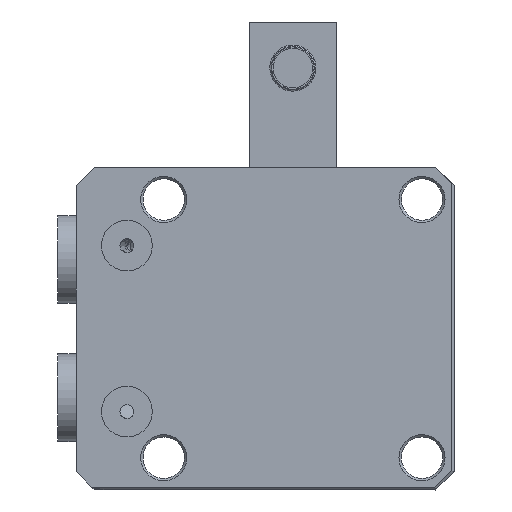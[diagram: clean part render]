
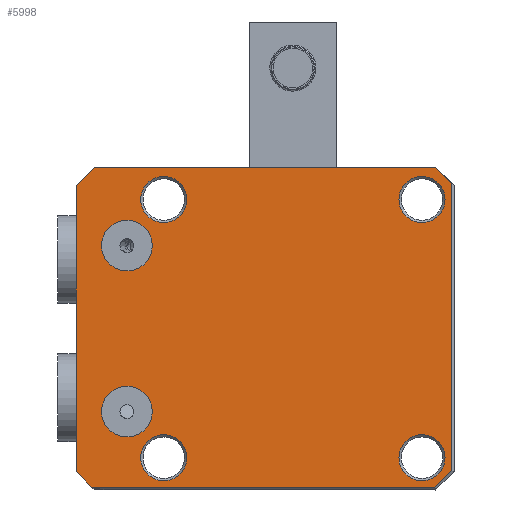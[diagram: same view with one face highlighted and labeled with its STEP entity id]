
A CAD part, front view. The second image highlights one B-rep face of the part: STEP entity #5998.
In plain terms, the highlighted planar face has unit normal (0, -1, 0).
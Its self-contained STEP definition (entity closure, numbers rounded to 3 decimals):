
#155=PLANE('',#6746);
#279=FACE_BOUND('',#862,.T.);
#280=FACE_BOUND('',#863,.T.);
#281=FACE_BOUND('',#864,.T.);
#282=FACE_BOUND('',#865,.T.);
#283=FACE_BOUND('',#866,.T.);
#284=FACE_BOUND('',#867,.T.);
#496=FACE_OUTER_BOUND('',#861,.T.);
#861=EDGE_LOOP('',(#4205,#4206,#4207,#4208,#4209,#4210,#4211,#4212,#4213));
#862=EDGE_LOOP('',(#4214));
#863=EDGE_LOOP('',(#4215));
#864=EDGE_LOOP('',(#4216));
#865=EDGE_LOOP('',(#4217));
#866=EDGE_LOOP('',(#4218));
#867=EDGE_LOOP('',(#4219));
#1282=LINE('',#9907,#1732);
#1290=LINE('',#9925,#1740);
#1293=LINE('',#9931,#1743);
#1294=LINE('',#9933,#1744);
#1295=LINE('',#9935,#1745);
#1296=LINE('',#9939,#1746);
#1297=LINE('',#9941,#1747);
#1298=LINE('',#9942,#1748);
#1732=VECTOR('',#7672,1000.);
#1740=VECTOR('',#7688,1000.);
#1743=VECTOR('',#7693,1000.);
#1744=VECTOR('',#7694,1000.);
#1745=VECTOR('',#7695,1000.);
#1746=VECTOR('',#7698,1000.);
#1747=VECTOR('',#7699,1000.);
#1748=VECTOR('',#7700,1000.);
#2142=CIRCLE('',#6674,5.5);
#2144=CIRCLE('',#6677,5.5);
#2149=CIRCLE('',#6684,5.);
#2152=CIRCLE('',#6688,5.);
#2155=CIRCLE('',#6692,5.);
#2158=CIRCLE('',#6696,5.);
#2184=CIRCLE('',#6747,55.5);
#2560=VERTEX_POINT('',#9576);
#2562=VERTEX_POINT('',#9582);
#2567=VERTEX_POINT('',#9596);
#2570=VERTEX_POINT('',#9604);
#2573=VERTEX_POINT('',#9612);
#2576=VERTEX_POINT('',#9620);
#2628=VERTEX_POINT('',#9904);
#2629=VERTEX_POINT('',#9906);
#2635=VERTEX_POINT('',#9924);
#2637=VERTEX_POINT('',#9930);
#2638=VERTEX_POINT('',#9932);
#2639=VERTEX_POINT('',#9934);
#2640=VERTEX_POINT('',#9936);
#2641=VERTEX_POINT('',#9938);
#2642=VERTEX_POINT('',#9940);
#3146=EDGE_CURVE('',#2560,#2560,#2142,.T.);
#3149=EDGE_CURVE('',#2562,#2562,#2144,.T.);
#3156=EDGE_CURVE('',#2567,#2567,#2149,.T.);
#3160=EDGE_CURVE('',#2570,#2570,#2152,.T.);
#3164=EDGE_CURVE('',#2573,#2573,#2155,.T.);
#3168=EDGE_CURVE('',#2576,#2576,#2158,.T.);
#3238=EDGE_CURVE('',#2628,#2629,#1282,.T.);
#3247=EDGE_CURVE('',#2635,#2629,#1290,.T.);
#3250=EDGE_CURVE('',#2628,#2637,#1293,.T.);
#3251=EDGE_CURVE('',#2637,#2638,#1294,.T.);
#3252=EDGE_CURVE('',#2638,#2639,#1295,.T.);
#3253=EDGE_CURVE('',#2639,#2640,#2184,.T.);
#3254=EDGE_CURVE('',#2640,#2641,#1296,.T.);
#3255=EDGE_CURVE('',#2641,#2642,#1297,.T.);
#3256=EDGE_CURVE('',#2642,#2635,#1298,.T.);
#4205=ORIENTED_EDGE('',*,*,#3247,.T.);
#4206=ORIENTED_EDGE('',*,*,#3238,.F.);
#4207=ORIENTED_EDGE('',*,*,#3250,.T.);
#4208=ORIENTED_EDGE('',*,*,#3251,.T.);
#4209=ORIENTED_EDGE('',*,*,#3252,.T.);
#4210=ORIENTED_EDGE('',*,*,#3253,.T.);
#4211=ORIENTED_EDGE('',*,*,#3254,.T.);
#4212=ORIENTED_EDGE('',*,*,#3255,.T.);
#4213=ORIENTED_EDGE('',*,*,#3256,.T.);
#4214=ORIENTED_EDGE('',*,*,#3156,.T.);
#4215=ORIENTED_EDGE('',*,*,#3160,.T.);
#4216=ORIENTED_EDGE('',*,*,#3164,.T.);
#4217=ORIENTED_EDGE('',*,*,#3168,.T.);
#4218=ORIENTED_EDGE('',*,*,#3146,.F.);
#4219=ORIENTED_EDGE('',*,*,#3149,.F.);
#5998=ADVANCED_FACE('',(#496,#279,#280,#281,#282,#283,#284),#155,.T.);
#6674=AXIS2_PLACEMENT_3D('',#9578,#7496,#7497);
#6677=AXIS2_PLACEMENT_3D('',#9584,#7503,#7504);
#6684=AXIS2_PLACEMENT_3D('',#9598,#7519,#7520);
#6688=AXIS2_PLACEMENT_3D('',#9606,#7528,#7529);
#6692=AXIS2_PLACEMENT_3D('',#9614,#7537,#7538);
#6696=AXIS2_PLACEMENT_3D('',#9622,#7546,#7547);
#6746=AXIS2_PLACEMENT_3D('',#9929,#7691,#7692);
#6747=AXIS2_PLACEMENT_3D('',#9937,#7696,#7697);
#7496=DIRECTION('center_axis',(0.,-1.,0.));
#7497=DIRECTION('ref_axis',(0.,0.,-1.));
#7503=DIRECTION('center_axis',(0.,-1.,0.));
#7504=DIRECTION('ref_axis',(0.,0.,-1.));
#7519=DIRECTION('center_axis',(0.,1.,0.));
#7520=DIRECTION('ref_axis',(0.,0.,-1.));
#7528=DIRECTION('center_axis',(0.,1.,0.));
#7529=DIRECTION('ref_axis',(0.,0.,-1.));
#7537=DIRECTION('center_axis',(0.,1.,0.));
#7538=DIRECTION('ref_axis',(0.,0.,-1.));
#7546=DIRECTION('center_axis',(0.,1.,0.));
#7547=DIRECTION('ref_axis',(0.,0.,-1.));
#7672=DIRECTION('',(1.,0.,0.));
#7688=DIRECTION('',(-0.707,0.,0.707));
#7691=DIRECTION('center_axis',(0.,-1.,0.));
#7692=DIRECTION('ref_axis',(0.,0.,-1.));
#7693=DIRECTION('',(-0.707,0.,-0.707));
#7694=DIRECTION('',(0.,0.,-1.));
#7695=DIRECTION('',(0.707,0.,-0.707));
#7696=DIRECTION('center_axis',(0.,1.,0.));
#7697=DIRECTION('ref_axis',(0.,0.,-1.));
#7698=DIRECTION('',(1.,0.,0.));
#7699=DIRECTION('',(0.707,0.,0.707));
#7700=DIRECTION('',(0.,0.,1.));
#9576=CARTESIAN_POINT('',(419.71,103.516,-12.5));
#9578=CARTESIAN_POINT('Origin',(419.71,103.516,-18.));
#9582=CARTESIAN_POINT('',(419.71,103.516,23.5));
#9584=CARTESIAN_POINT('Origin',(419.71,103.516,18.));
#9596=CARTESIAN_POINT('',(427.71,103.516,33.));
#9598=CARTESIAN_POINT('Origin',(427.71,103.516,28.));
#9604=CARTESIAN_POINT('',(483.71,103.516,33.));
#9606=CARTESIAN_POINT('Origin',(483.71,103.516,28.));
#9612=CARTESIAN_POINT('',(483.71,103.516,-23.));
#9614=CARTESIAN_POINT('Origin',(483.71,103.516,-28.));
#9620=CARTESIAN_POINT('',(427.71,103.516,-23.));
#9622=CARTESIAN_POINT('Origin',(427.71,103.516,-28.));
#9904=CARTESIAN_POINT('',(412.71,103.516,35.));
#9906=CARTESIAN_POINT('',(486.71,103.516,35.));
#9907=CARTESIAN_POINT('',(412.71,103.516,35.));
#9924=CARTESIAN_POINT('',(490.21,103.516,31.5));
#9925=CARTESIAN_POINT('',(490.71,103.516,31.));
#9929=CARTESIAN_POINT('Origin',(408.71,103.516,35.));
#9930=CARTESIAN_POINT('',(408.71,103.516,31.));
#9931=CARTESIAN_POINT('',(412.71,103.516,35.));
#9932=CARTESIAN_POINT('',(408.71,103.516,-31.));
#9933=CARTESIAN_POINT('',(408.71,103.516,35.));
#9934=CARTESIAN_POINT('',(412.337,103.516,-34.627));
#9935=CARTESIAN_POINT('',(408.71,103.516,-31.));
#9936=CARTESIAN_POINT('',(412.236,103.516,-34.5));
#9937=CARTESIAN_POINT('Origin',(455.71,103.516,0.));
#9938=CARTESIAN_POINT('',(486.503,103.516,-34.5));
#9939=CARTESIAN_POINT('',(408.71,103.516,-34.5));
#9940=CARTESIAN_POINT('',(490.21,103.516,-30.793));
#9941=CARTESIAN_POINT('',(486.503,103.516,-34.5));
#9942=CARTESIAN_POINT('',(490.21,103.516,35.));
